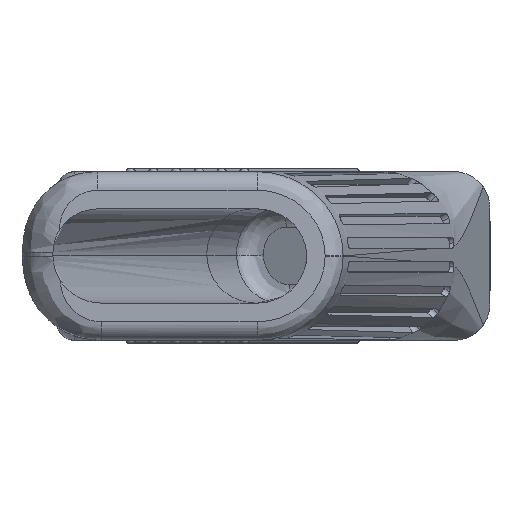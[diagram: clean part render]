
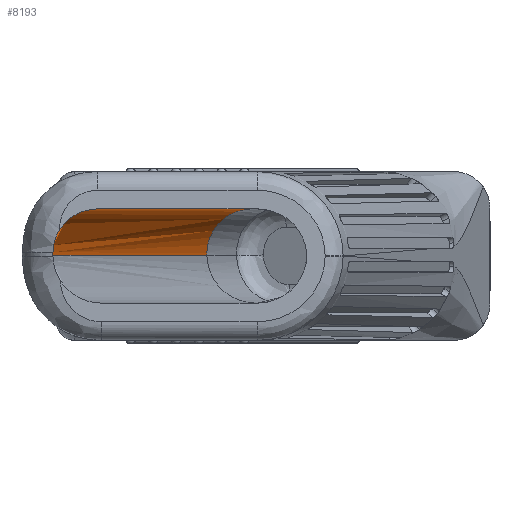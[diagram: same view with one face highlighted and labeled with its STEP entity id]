
A CAD part, front view. The second image highlights one B-rep face of the part: STEP entity #8193.
In plain terms, the highlighted free-form (B-spline) face has degree [3, 1] with [4, 2] control points.
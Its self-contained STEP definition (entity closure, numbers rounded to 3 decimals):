
#13 = FACE_OUTER_BOUND ( 'NONE', #2758, .T. ) ;
#503 =( BOUNDED_CURVE ( )  B_SPLINE_CURVE ( 3, ( #542, #576, #3623, #9370 ),
 .UNSPECIFIED., .F., .F. ) 
 B_SPLINE_CURVE_WITH_KNOTS ( ( 4, 4 ),
 ( 0., 1. ),
 .UNSPECIFIED. ) 
 CURVE ( )  GEOMETRIC_REPRESENTATION_ITEM ( )  RATIONAL_B_SPLINE_CURVE ( ( 1., 1., 1., 1. ) ) 
 REPRESENTATION_ITEM ( '' )  );
#542 = CARTESIAN_POINT ( 'NONE',  ( -38.624, -30.742, 11.937 ) ) ;
#576 = CARTESIAN_POINT ( 'NONE',  ( -38.628, -30.741, 11.818 ) ) ;
#603 = ORIENTED_EDGE ( 'NONE', *, *, #4859, .F. ) ;
#721 = LINE ( 'NONE', #7937, #8366 ) ;
#826 = CARTESIAN_POINT ( 'NONE',  ( -53.499, -109.288, 17.932 ) ) ;
#1173 = VERTEX_POINT ( 'NONE', #8373 ) ;
#1235 = LINE ( 'NONE', #826, #2503 ) ;
#1309 = DIRECTION ( 'NONE',  ( 0.259, 0.966, 0. ) ) ;
#1364 = DIRECTION ( 'NONE',  ( 1., 0., 0. ) ) ;
#1705 = CARTESIAN_POINT ( 'NONE',  ( -58.687, -109.288, 15.105 ) ) ;
#2093 = CARTESIAN_POINT ( 'NONE',  ( -59.612, -109.078, 12.003 ) ) ;
#2130 = CIRCLE ( 'NONE', #2935, 6.174 ) ;
#2235 = CARTESIAN_POINT ( 'NONE',  ( -53.499, -109.288, 11.759 ) ) ;
#2503 = VECTOR ( 'NONE', #6775, 1000. ) ;
#2582 = CARTESIAN_POINT ( 'NONE',  ( -59.614, -109.078, 11.58 ) ) ;
#2587 = VERTEX_POINT ( 'NONE', #7172 ) ;
#2758 = EDGE_LOOP ( 'NONE', ( #6857, #4325, #603, #6140, #9144, #8091, #8649 ) ) ;
#2761 = EDGE_CURVE ( 'NONE', #1173, #5206, #2130, .T. ) ;
#2884 = DIRECTION ( 'NONE',  ( 0., -1., 0. ) ) ;
#2893 = EDGE_CURVE ( 'NONE', #6952, #5206, #3759, .T. ) ;
#2935 = AXIS2_PLACEMENT_3D ( 'NONE', #2235, #8806, #5179 ) ;
#2988 = CARTESIAN_POINT ( 'NONE',  ( -38.624, -30.742, 11.58 ) ) ;
#3133 = CARTESIAN_POINT ( 'NONE',  ( -38.732, -30.742, 15.278 ) ) ;
#3196 = CARTESIAN_POINT ( 'NONE',  ( -53.499, -109.288, 17.932 ) ) ;
#3623 = CARTESIAN_POINT ( 'NONE',  ( -38.628, -30.741, 11.699 ) ) ;
#3700 = VERTEX_POINT ( 'NONE', #9122 ) ;
#3759 = B_SPLINE_CURVE_WITH_KNOTS ( 'NONE', 3,
 ( #3937, #5979, #7531, #4606, #8188, #1705 ),
 .UNSPECIFIED., .F., .F.,
 ( 4, 2, 4 ),
 ( 0., 0.002, 0.003 ),
 .UNSPECIFIED. ) ;
#3807 = CARTESIAN_POINT ( 'NONE',  ( -59.618, -109.077, 11.721 ) ) ;
#3852 = CARTESIAN_POINT ( 'NONE',  ( -59.778, -109.288, 15.278 ) ) ;
#3937 = CARTESIAN_POINT ( 'NONE',  ( -59.612, -109.078, 12.003 ) ) ;
#4257 = VERTEX_POINT ( 'NONE', #2582 ) ;
#4325 = ORIENTED_EDGE ( 'NONE', *, *, #5823, .F. ) ;
#4534 = EDGE_CURVE ( 'NONE', #3700, #8428, #503, .T. ) ;
#4540 = CARTESIAN_POINT ( 'NONE',  ( -59.617, -109.077, 11.862 ) ) ;
#4606 = CARTESIAN_POINT ( 'NONE',  ( -59.21, -109.246, 14.142 ) ) ;
#4859 = EDGE_CURVE ( 'NONE', #1173, #2587, #1235, .T. ) ;
#5091 =( BOUNDED_SURFACE ( )  B_SPLINE_SURFACE ( 3, 1, ( 
 ( #3196, #6595 ),
 ( #6082, #7341 ),
 ( #3852, #3133 ),
 ( #6118, #2988 ) ),
 .UNSPECIFIED., .F., .F., .F. ) 
 B_SPLINE_SURFACE_WITH_KNOTS ( ( 4, 4 ),
 ( 2, 2 ),
 ( 0., 1. ),
 ( 0., 1. ),
 .UNSPECIFIED. ) 
 GEOMETRIC_REPRESENTATION_ITEM ( )  RATIONAL_B_SPLINE_SURFACE ( (
 ( 1., 1.),
 ( 0.798, 0.798),
 ( 0.798, 0.798),
 ( 1., 1.) ) ) 
 REPRESENTATION_ITEM ( '' )  SURFACE ( )  );
#5179 = DIRECTION ( 'NONE',  ( 1., 0., 0. ) ) ;
#5206 = VERTEX_POINT ( 'NONE', #8959 ) ;
#5235 = EDGE_CURVE ( 'NONE', #4257, #8428, #721, .T. ) ;
#5283 = B_SPLINE_CURVE_WITH_KNOTS ( 'NONE', 3,
 ( #8867, #3807, #4540, #5296 ),
 .UNSPECIFIED., .F., .F.,
 ( 4, 4 ),
 ( 0., 0. ),
 .UNSPECIFIED. ) ;
#5296 = CARTESIAN_POINT ( 'NONE',  ( -59.612, -109.078, 12.003 ) ) ;
#5823 = EDGE_CURVE ( 'NONE', #2587, #3700, #7248, .T. ) ;
#5979 = CARTESIAN_POINT ( 'NONE',  ( -59.592, -109.084, 12.551 ) ) ;
#6082 = CARTESIAN_POINT ( 'NONE',  ( -57.199, -109.288, 17.932 ) ) ;
#6118 = CARTESIAN_POINT ( 'NONE',  ( -59.67, -109.288, 11.58 ) ) ;
#6140 = ORIENTED_EDGE ( 'NONE', *, *, #2761, .T. ) ;
#6269 = AXIS2_PLACEMENT_3D ( 'NONE', #8640, #2884, #1364 ) ;
#6595 = CARTESIAN_POINT ( 'NONE',  ( -32.453, -30.742, 17.932 ) ) ;
#6775 = DIRECTION ( 'NONE',  ( 0.259, 0.966, 0. ) ) ;
#6857 = ORIENTED_EDGE ( 'NONE', *, *, #4534, .F. ) ;
#6952 = VERTEX_POINT ( 'NONE', #2093 ) ;
#7172 = CARTESIAN_POINT ( 'NONE',  ( -32.453, -30.742, 17.932 ) ) ;
#7248 = CIRCLE ( 'NONE', #6269, 6.174 ) ;
#7341 = CARTESIAN_POINT ( 'NONE',  ( -36.153, -30.742, 17.932 ) ) ;
#7531 = CARTESIAN_POINT ( 'NONE',  ( -59.513, -109.144, 13.095 ) ) ;
#7569 = EDGE_CURVE ( 'NONE', #4257, #6952, #5283, .T. ) ;
#7937 = CARTESIAN_POINT ( 'NONE',  ( -59.67, -109.288, 11.58 ) ) ;
#8091 = ORIENTED_EDGE ( 'NONE', *, *, #7569, .F. ) ;
#8188 = CARTESIAN_POINT ( 'NONE',  ( -58.984, -109.288, 14.645 ) ) ;
#8193 = ADVANCED_FACE ( 'NONE', ( #13 ), #5091, .T. ) ;
#8366 = VECTOR ( 'NONE', #1309, 1000. ) ;
#8373 = CARTESIAN_POINT ( 'NONE',  ( -53.499, -109.288, 17.932 ) ) ;
#8428 = VERTEX_POINT ( 'NONE', #8748 ) ;
#8640 = CARTESIAN_POINT ( 'NONE',  ( -32.453, -30.742, 11.759 ) ) ;
#8649 = ORIENTED_EDGE ( 'NONE', *, *, #5235, .T. ) ;
#8748 = CARTESIAN_POINT ( 'NONE',  ( -38.624, -30.742, 11.58 ) ) ;
#8806 = DIRECTION ( 'NONE',  ( 0., -1., 0. ) ) ;
#8867 = CARTESIAN_POINT ( 'NONE',  ( -59.614, -109.078, 11.58 ) ) ;
#8959 = CARTESIAN_POINT ( 'NONE',  ( -58.687, -109.288, 15.105 ) ) ;
#9122 = CARTESIAN_POINT ( 'NONE',  ( -38.624, -30.742, 11.937 ) ) ;
#9144 = ORIENTED_EDGE ( 'NONE', *, *, #2893, .F. ) ;
#9370 = CARTESIAN_POINT ( 'NONE',  ( -38.624, -30.742, 11.58 ) ) ;
